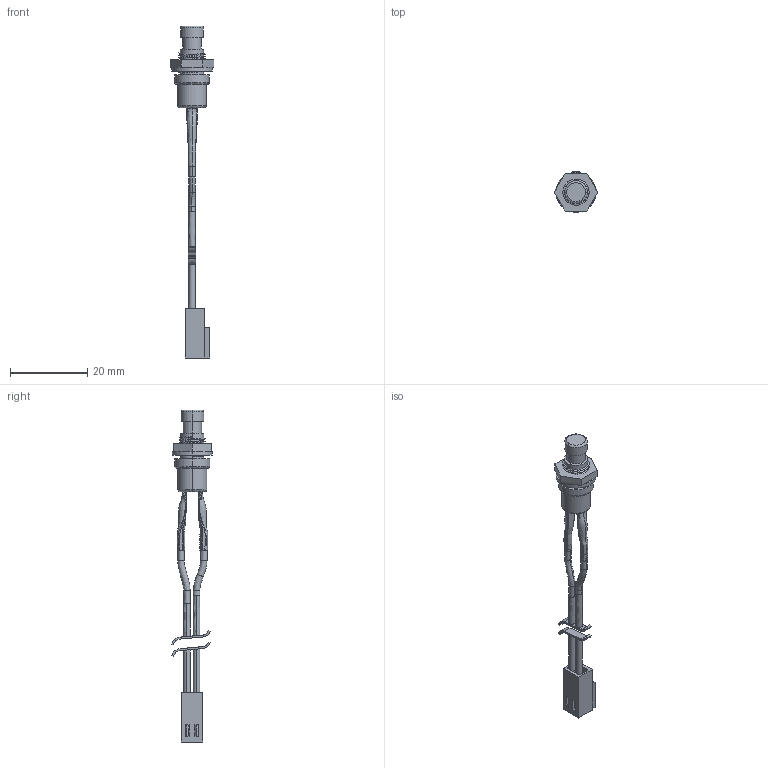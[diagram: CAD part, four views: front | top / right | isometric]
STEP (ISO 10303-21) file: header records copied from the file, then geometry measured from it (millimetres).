
FILE_DESCRIPTION((''),'2;1');
FILE_NAME('15009439Z_SWITCH-PLUG-ASSY','2015-05-04T',('juergen.hrach'),(''),'PRO/ENGINEER BY PARAMETRIC TECHNOLOGY CORPORATION, 2014000','PRO/ENGINEER BY PARAMETRIC TECHNOLOGY CORPORATION, 2014000','');
FILE_SCHEMA(('AUTOMOTIVE_DESIGN { 1 0 10303 214 1 1 1 1 }'));
Length unit declared in the file: millimetre
Products named in the file (1): 15009439Z_SWITCH-PLUG-ASSY
Bounding box: 11.32 x 10.6 x 86.18 mm (x, y, z)
Volume: 1351.8 mm3; surface area: 2266.6 mm2
Topology: 3 solids, 5 shells, 218 faces, 530 edges, 343 vertices
Faces by surface type: bspline 163, revolution 55
Entity records: 22142 total; most frequent: CARTESIAN_POINT 15644, ORIENTED_EDGE 1060, DIRECTION 548, PRESENTATION_STYLE_ASSIGNMENT 535, STYLED_ITEM 535, CURVE_STYLE 530, EDGE_CURVE 530, VERTEX_POINT 343
